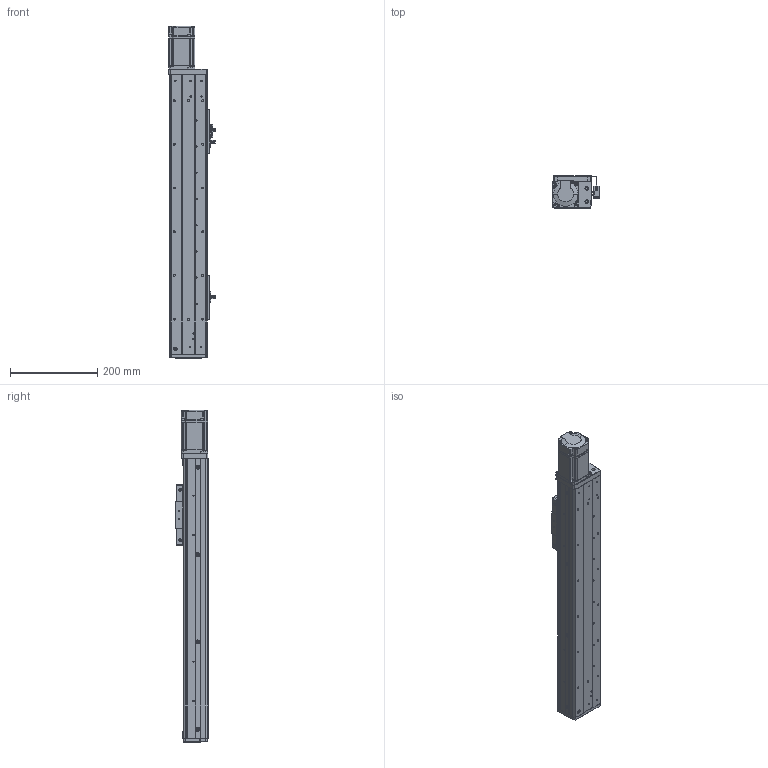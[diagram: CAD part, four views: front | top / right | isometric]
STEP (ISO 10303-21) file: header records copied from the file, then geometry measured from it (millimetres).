
FILE_DESCRIPTION (( 'STEP AP203' ), '1' );
FILE_NAME ('RY80F-L1610-300-MK.SLDASM_400.step', '2021-03-02T03:18:49', ( '盈信电脑' ), ( '东莞市道滘镇水果街19号' ), 'SwSTEP 2.0', 'SolidWorks 2012', '' );
FILE_SCHEMA (( 'CONFIG_CONTROL_DESIGN' ));
Length unit declared in the file: millimetre
Products named in the file (16): RY80F-綴裔啣(臏璃ㄘ; 672嫖萇羲壽假蚾釱; 蚥薯蝶紫輸; 滅袉蝶18-24; RY80F-詩湍揤踡輸; RY80F-L1610-300-MK.SLDASM_400; RY80俋离覜茼え; 覜茼ん672; 侂狟200W萇儂; 1; RY80F-滅鳥裔啣; RY80F-丝杆铝滑块(16丝杆）; RY80F-佪裝眻蟀ヶ裔啣(200W PCD70 M4); RY80F-300-祥凄詩湍-MK_400; RY80F-丝杆直连型材底座_400; RY80F-300丝杆直连型材盖板_400
Assembly tree (21 placements, depth 3):
  RY80F-L1610-300-MK.SLDASM_400
    RY80F-丝杆直连型材底座_400
    RY80F-300丝杆直连型材盖板_400  x2
    RY80F-丝杆铝滑块(16丝杆）
    RY80F-滅鳥裔啣
    RY80F-300-祥凄詩湍-MK_400
    RY80F-佪裝眻蟀ヶ裔啣(200W PCD70 M4)
    RY80F-詩湍揤踡輸  x2
    RY80F-綴裔啣(臏璃ㄘ
    672嫖萇羲壽假蚾釱  x2
    蚥薯蝶紫輸
    滅袉蝶18-24  x2
    侂狟200W萇儂
      1
    RY80俋离覜茼え
    覜茼ん672  x3
Bounding box: 107.2 x 75 x 760 mm (x, y, z)
Volume: 1576173.5 mm3; surface area: 596246.8 mm2
Topology: 20 solids, 20 shells, 1670 faces, 4593 edges, 2994 vertices
Faces by surface type: plane 801, cylinder 742, cone 109, bspline 18
Entity records: 47565 total; most frequent: CARTESIAN_POINT 9959, DIRECTION 7499, ORIENTED_EDGE 7458, EDGE_CURVE 3729, AXIS2_PLACEMENT_3D 2632, VERTEX_POINT 2446, VECTOR 2235, LINE 2235
